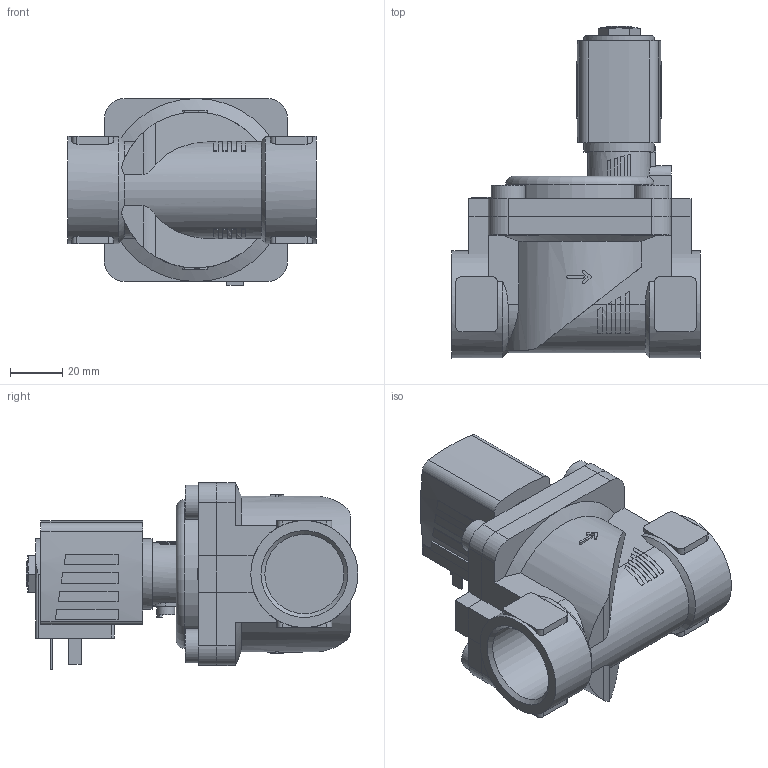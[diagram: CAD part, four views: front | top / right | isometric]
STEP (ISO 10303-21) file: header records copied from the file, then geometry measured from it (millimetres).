
FILE_DESCRIPTION(/* description */ ('STEP AP214'),/* implementation_level */ '2;1');
FILE_NAME(/* name */ '6281-308772-2_2-Way_Solenoid_Valve__Servo-assisted__General_Purpose',/* time_stamp */ '2024-06-17T16:18:45+02:00',/* author */ ('License CC BY-ND 4.0'),/* organization */ ('CADENAS'),/* preprocessor_version */ 'ST-DEVELOPER v19.3',/* originating_system */ 'PARTsolutions',/* authorisation */ ' ');
FILE_SCHEMA (('AUTOMOTIVE_DESIGN {1 0 10303 214 3 1 1}'));
Length unit declared in the file: millimetre
Products named in the file (4): 6281-308772-2/2-Way Solenoid Valve, Servo-assisted, General Purpose; 5281ev251MS2/2-Wege-Magnetventil mit Servomembran-Deckel   ; 6213-25G1MS-Gehaeuse-; AC10ex-5NA38-Plan-Coil
Assembly tree (3 placements, depth 2):
  6281-308772-2/2-Way Solenoid Valve, Servo-assisted, General Purpose
    5281ev251MS2/2-Wege-Magnetventil mit Servomembran-Deckel   
    6213-25G1MS-Gehaeuse-
    AC10ex-5NA38-Plan-Coil
Bounding box: 95 x 127 x 71.5 mm (x, y, z)
Volume: 288875 mm3; surface area: 54897.9 mm2
Topology: 3 solids, 3 shells, 355 faces, 936 edges, 618 vertices
Faces by surface type: plane 248, cylinder 93, cone 13, torus 1
Full cylindrical faces by diameter (mm): 2.013 x1, 6.8 x1, 9.74 x1, 13 x4, 27 x1, 30.291 x2, 41 x2
Entity records: 12296 total; most frequent: CARTESIAN_POINT 2148, ORIENTED_EDGE 1820, DIRECTION 1810, EDGE_CURVE 910, AXIS2_PLACEMENT_3D 612, VERTEX_POINT 609, LINE 586, VECTOR 586
